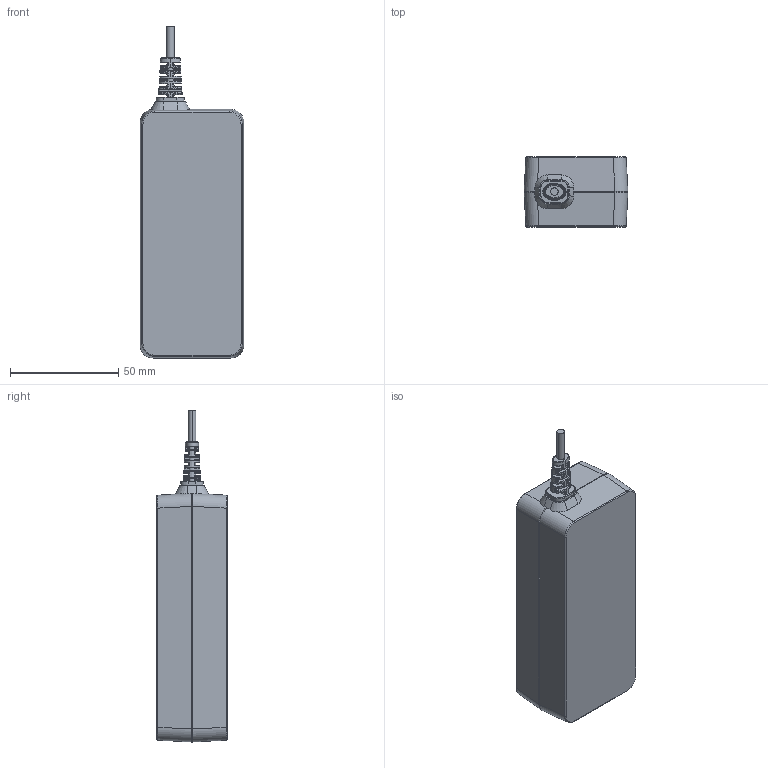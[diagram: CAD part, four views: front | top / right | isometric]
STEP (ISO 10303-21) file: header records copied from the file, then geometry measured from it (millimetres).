
FILE_DESCRIPTION((''),'2;1');
FILE_NAME('VET36','2018-08-16T16:30:24',('jquinto'),(''),'CREO PARAMETRIC BY PTC INC, 2018100','CREO PARAMETRIC BY PTC INC, 2018100','');
FILE_SCHEMA(('CONFIG_CONTROL_DESIGN'));
Length unit declared in the file: millimetre
Products named in the file (1): VET36
Bounding box: 48 x 32.5 x 153.6 mm (x, y, z)
Volume: 173131.2 mm3; surface area: 32509.7 mm2
Topology: 1 solids, 1 shells, 338 faces, 844 edges, 518 vertices
Faces by surface type: cylinder 134, bspline 98, plane 82, torus 16, cone 8
Entity records: 17275 total; most frequent: CARTESIAN_POINT 10197, ORIENTED_EDGE 1688, DIRECTION 1144, EDGE_CURVE 844, VERTEX_POINT 518, AXIS2_PLACEMENT_3D 426, B_SPLINE_CURVE_WITH_KNOTS 366, EDGE_LOOP 348
